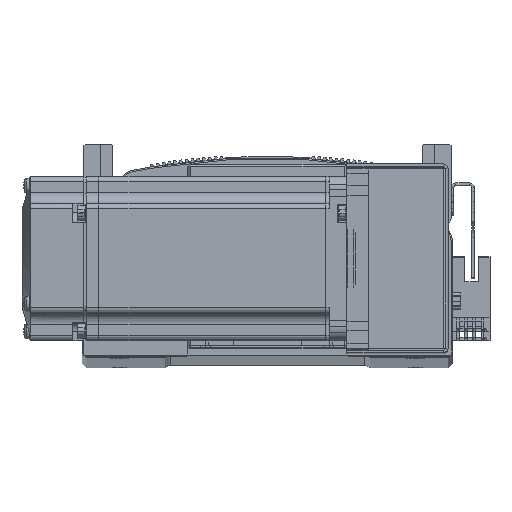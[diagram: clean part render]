
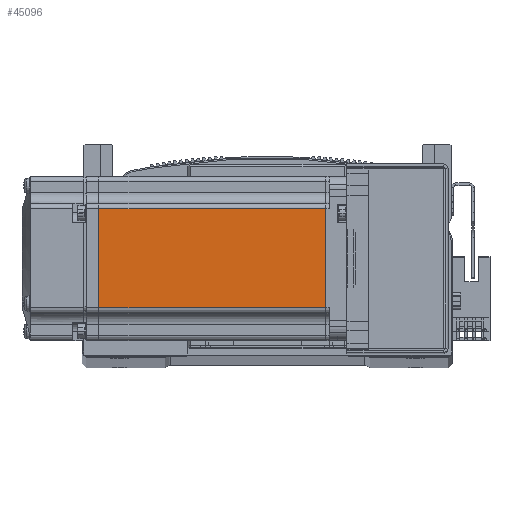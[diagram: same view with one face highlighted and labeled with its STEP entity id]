
A CAD part, top view. The second image highlights one B-rep face of the part: STEP entity #45096.
In plain terms, the highlighted planar face has unit normal (0, 0, 1) as drawn and (0, -1, 0) by its records, which use the part's own axes.
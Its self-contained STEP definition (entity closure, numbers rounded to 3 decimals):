
#6713 = VERTEX_POINT ( 'NONE', #29806 ) ;
#6733 = VERTEX_POINT ( 'NONE', #29890 ) ;
#6745 = VERTEX_POINT ( 'NONE', #29762 ) ;
#6761 = VERTEX_POINT ( 'NONE', #29929 ) ;
#10578 = ORIENTED_EDGE ( 'NONE', *, *, #74755, .T. ) ;
#10610 = ORIENTED_EDGE ( 'NONE', *, *, #74783, .F. ) ;
#10624 = ORIENTED_EDGE ( 'NONE', *, *, #74529, .F. ) ;
#17913 = CARTESIAN_POINT ( 'NONE',  ( -6.5, -30., -25. ) ) ;
#17922 = DIRECTION ( 'NONE',  ( 0., -1., 0. ) ) ;
#17925 = DIRECTION ( 'NONE',  ( 0., 0., -1. ) ) ;
#17939 = PLANE ( 'NONE',  #26838 ) ;
#20496 = FACE_OUTER_BOUND ( 'NONE', #70385, .T. ) ;
#26838 = AXIS2_PLACEMENT_3D ( 'NONE', #17913, #17922, #17925 ) ;
#29762 = CARTESIAN_POINT ( 'NONE',  ( -90.45, -30., 18. ) ) ;
#29806 = CARTESIAN_POINT ( 'NONE',  ( -7.75, -30., 18. ) ) ;
#29890 = CARTESIAN_POINT ( 'NONE',  ( -90.45, -30., -18. ) ) ;
#29929 = CARTESIAN_POINT ( 'NONE',  ( -7.75, -30., -18. ) ) ;
#45096 = ADVANCED_FACE ( 'NONE', ( #20496 ), #17939, .T. ) ;
#67521 = ORIENTED_EDGE ( 'NONE', *, *, #74526, .T. ) ;
#70385 = EDGE_LOOP ( 'NONE', ( #10624, #67521, #10578, #10610 ) ) ;
#74526 = EDGE_CURVE ( 'NONE', #6713, #6745, #84966, .T. ) ;
#74529 = EDGE_CURVE ( 'NONE', #6713, #6761, #84980, .T. ) ;
#74755 = EDGE_CURVE ( 'NONE', #6745, #6733, #85085, .T. ) ;
#74783 = EDGE_CURVE ( 'NONE', #6761, #6733, #85068, .T. ) ;
#84172 = DIRECTION ( 'NONE',  ( -1., 0., 0. ) ) ;
#84184 = DIRECTION ( 'NONE',  ( 0., 0., -1. ) ) ;
#84203 = CARTESIAN_POINT ( 'NONE',  ( -6.5, -30., 18. ) ) ;
#84204 = CARTESIAN_POINT ( 'NONE',  ( -7.75, -30., 0. ) ) ;
#84340 = DIRECTION ( 'NONE',  ( 0., 0., -1. ) ) ;
#84353 = CARTESIAN_POINT ( 'NONE',  ( -90.45, -30., 0. ) ) ;
#84402 = DIRECTION ( 'NONE',  ( -1., 0., 0. ) ) ;
#84404 = CARTESIAN_POINT ( 'NONE',  ( -6.5, -30., -18. ) ) ;
#84946 = VECTOR ( 'NONE', #84172, 1000. ) ;
#84966 = LINE ( 'NONE', #84203, #84946 ) ;
#84973 = VECTOR ( 'NONE', #84184, 1000. ) ;
#84980 = LINE ( 'NONE', #84204, #84973 ) ;
#85068 = LINE ( 'NONE', #84404, #85096 ) ;
#85085 = LINE ( 'NONE', #84353, #85103 ) ;
#85096 = VECTOR ( 'NONE', #84402, 1000. ) ;
#85103 = VECTOR ( 'NONE', #84340, 1000. ) ;
